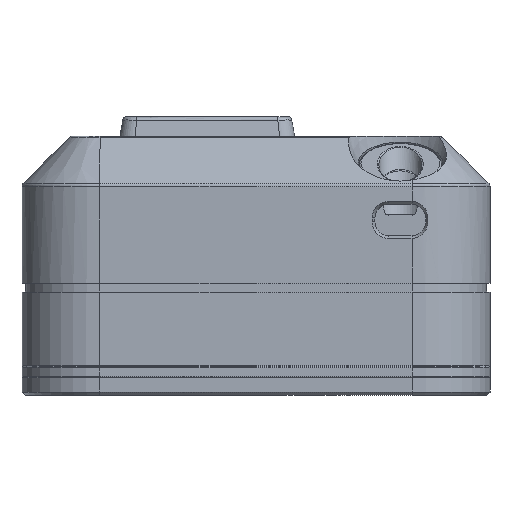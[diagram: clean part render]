
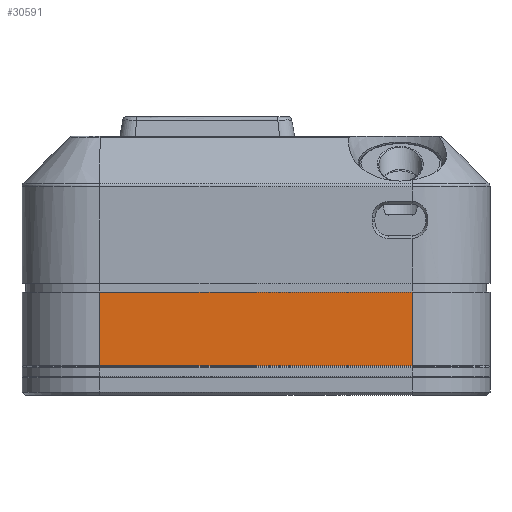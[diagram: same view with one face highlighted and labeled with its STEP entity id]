
A CAD part, left-side view. The second image highlights one B-rep face of the part: STEP entity #30591.
In plain terms, the highlighted planar face has unit normal (-1, 0, 0).
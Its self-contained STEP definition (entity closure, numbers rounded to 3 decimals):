
#8400 = PLANE('',#8401);
#8401 = AXIS2_PLACEMENT_3D('',#8402,#8403,#8404);
#8402 = CARTESIAN_POINT('',(-27.1,-24.1,3.05));
#8403 = DIRECTION('',(0.,0.,1.));
#8404 = DIRECTION('',(1.,0.,0.));
#9003 = VERTEX_POINT('',#9004);
#9004 = CARTESIAN_POINT('',(-27.,16.,3.05));
#9019 = CYLINDRICAL_SURFACE('',#9020,8.);
#9020 = AXIS2_PLACEMENT_3D('',#9021,#9022,#9023);
#9021 = CARTESIAN_POINT('',(-19.,16.,2.4));
#9022 = DIRECTION('',(0.,0.,1.));
#9023 = DIRECTION('',(-1.,-0.,0.));
#9031 = EDGE_CURVE('',#9003,#9032,#9034,.T.);
#9032 = VERTEX_POINT('',#9033);
#9033 = CARTESIAN_POINT('',(-27.,-16.,3.05));
#9034 = SURFACE_CURVE('',#9035,(#9039,#9045),.PCURVE_S1.);
#9035 = LINE('',#9036,#9037);
#9036 = CARTESIAN_POINT('',(-27.,-24.05,3.05));
#9037 = VECTOR('',#9038,1.);
#9038 = DIRECTION('',(0.,-1.,0.));
#9039 = PCURVE('',#8400,#9040);
#9040 = DEFINITIONAL_REPRESENTATION('',(#9041),#9044);
#9041 = B_SPLINE_CURVE_WITH_KNOTS('',1,(#9042,#9043),.UNSPECIFIED.,.F.,
  .F.,(2,2),(-40.05,-8.05),.PIECEWISE_BEZIER_KNOTS.);
#9042 = CARTESIAN_POINT('',(0.1,40.1));
#9043 = CARTESIAN_POINT('',(0.1,8.1));
#9044 = ( GEOMETRIC_REPRESENTATION_CONTEXT(2) 
PARAMETRIC_REPRESENTATION_CONTEXT() REPRESENTATION_CONTEXT('2D SPACE',''
  ) );
#9045 = PCURVE('',#9046,#9051);
#9046 = PLANE('',#9047);
#9047 = AXIS2_PLACEMENT_3D('',#9048,#9049,#9050);
#9048 = CARTESIAN_POINT('',(-27.,-24.,2.4));
#9049 = DIRECTION('',(1.,0.,0.));
#9050 = DIRECTION('',(0.,0.,1.));
#9051 = DEFINITIONAL_REPRESENTATION('',(#9052),#9055);
#9052 = B_SPLINE_CURVE_WITH_KNOTS('',1,(#9053,#9054),.UNSPECIFIED.,.F.,
  .F.,(2,2),(-40.05,-8.05),.PIECEWISE_BEZIER_KNOTS.);
#9053 = CARTESIAN_POINT('',(0.65,-40.));
#9054 = CARTESIAN_POINT('',(0.65,-8.));
#9055 = ( GEOMETRIC_REPRESENTATION_CONTEXT(2) 
PARAMETRIC_REPRESENTATION_CONTEXT() REPRESENTATION_CONTEXT('2D SPACE',''
  ) );
#9074 = CYLINDRICAL_SURFACE('',#9075,8.);
#9075 = AXIS2_PLACEMENT_3D('',#9076,#9077,#9078);
#9076 = CARTESIAN_POINT('',(-19.,-16.,2.4));
#9077 = DIRECTION('',(0.,0.,1.));
#9078 = DIRECTION('',(-1.,-0.,0.));
#9108 = EDGE_CURVE('',#9032,#9109,#9111,.T.);
#9109 = VERTEX_POINT('',#9110);
#9110 = CARTESIAN_POINT('',(-27.,-16.,10.6));
#9111 = SURFACE_CURVE('',#9112,(#9116,#9123),.PCURVE_S1.);
#9112 = LINE('',#9113,#9114);
#9113 = CARTESIAN_POINT('',(-27.,-16.,2.4));
#9114 = VECTOR('',#9115,1.);
#9115 = DIRECTION('',(0.,0.,1.));
#9116 = PCURVE('',#9074,#9117);
#9117 = DEFINITIONAL_REPRESENTATION('',(#9118),#9122);
#9118 = LINE('',#9119,#9120);
#9119 = CARTESIAN_POINT('',(0.,0.));
#9120 = VECTOR('',#9121,1.);
#9121 = DIRECTION('',(0.,1.));
#9122 = ( GEOMETRIC_REPRESENTATION_CONTEXT(2) 
PARAMETRIC_REPRESENTATION_CONTEXT() REPRESENTATION_CONTEXT('2D SPACE',''
  ) );
#9123 = PCURVE('',#9046,#9124);
#9124 = DEFINITIONAL_REPRESENTATION('',(#9125),#9129);
#9125 = LINE('',#9126,#9127);
#9126 = CARTESIAN_POINT('',(0.,-8.));
#9127 = VECTOR('',#9128,1.);
#9128 = DIRECTION('',(1.,0.));
#9129 = ( GEOMETRIC_REPRESENTATION_CONTEXT(2) 
PARAMETRIC_REPRESENTATION_CONTEXT() REPRESENTATION_CONTEXT('2D SPACE',''
  ) );
#9170 = PLANE('',#9171);
#9171 = AXIS2_PLACEMENT_3D('',#9172,#9173,#9174);
#9172 = CARTESIAN_POINT('',(-27.5,-24.5,10.6));
#9173 = DIRECTION('',(0.,0.,1.));
#9174 = DIRECTION('',(1.,0.,0.));
#9185 = EDGE_CURVE('',#9186,#9109,#9188,.T.);
#9186 = VERTEX_POINT('',#9187);
#9187 = CARTESIAN_POINT('',(-27.,16.,10.6));
#9188 = SURFACE_CURVE('',#9189,(#9193,#9199),.PCURVE_S1.);
#9189 = LINE('',#9190,#9191);
#9190 = CARTESIAN_POINT('',(-27.,-24.25,10.6));
#9191 = VECTOR('',#9192,1.);
#9192 = DIRECTION('',(0.,-1.,0.));
#9193 = PCURVE('',#9170,#9194);
#9194 = DEFINITIONAL_REPRESENTATION('',(#9195),#9198);
#9195 = B_SPLINE_CURVE_WITH_KNOTS('',1,(#9196,#9197),.UNSPECIFIED.,.F.,
  .F.,(2,2),(-40.25,-8.25),.PIECEWISE_BEZIER_KNOTS.);
#9196 = CARTESIAN_POINT('',(0.5,40.5));
#9197 = CARTESIAN_POINT('',(0.5,8.5));
#9198 = ( GEOMETRIC_REPRESENTATION_CONTEXT(2) 
PARAMETRIC_REPRESENTATION_CONTEXT() REPRESENTATION_CONTEXT('2D SPACE',''
  ) );
#9199 = PCURVE('',#9046,#9200);
#9200 = DEFINITIONAL_REPRESENTATION('',(#9201),#9204);
#9201 = B_SPLINE_CURVE_WITH_KNOTS('',1,(#9202,#9203),.UNSPECIFIED.,.F.,
  .F.,(2,2),(-40.25,-8.25),.PIECEWISE_BEZIER_KNOTS.);
#9202 = CARTESIAN_POINT('',(8.2,-40.));
#9203 = CARTESIAN_POINT('',(8.2,-8.));
#9204 = ( GEOMETRIC_REPRESENTATION_CONTEXT(2) 
PARAMETRIC_REPRESENTATION_CONTEXT() REPRESENTATION_CONTEXT('2D SPACE',''
  ) );
#30591 = ADVANCED_FACE('',(#30592),#9046,.F.);
#30592 = FACE_BOUND('',#30593,.F.);
#30593 = EDGE_LOOP('',(#30594,#30595,#30596,#30617));
#30594 = ORIENTED_EDGE('',*,*,#9108,.F.);
#30595 = ORIENTED_EDGE('',*,*,#9031,.F.);
#30596 = ORIENTED_EDGE('',*,*,#30597,.T.);
#30597 = EDGE_CURVE('',#9003,#9186,#30598,.T.);
#30598 = SURFACE_CURVE('',#30599,(#30603,#30610),.PCURVE_S1.);
#30599 = LINE('',#30600,#30601);
#30600 = CARTESIAN_POINT('',(-27.,16.,2.4));
#30601 = VECTOR('',#30602,1.);
#30602 = DIRECTION('',(0.,0.,1.));
#30603 = PCURVE('',#9046,#30604);
#30604 = DEFINITIONAL_REPRESENTATION('',(#30605),#30609);
#30605 = LINE('',#30606,#30607);
#30606 = CARTESIAN_POINT('',(0.,-40.));
#30607 = VECTOR('',#30608,1.);
#30608 = DIRECTION('',(1.,0.));
#30609 = ( GEOMETRIC_REPRESENTATION_CONTEXT(2) 
PARAMETRIC_REPRESENTATION_CONTEXT() REPRESENTATION_CONTEXT('2D SPACE',''
  ) );
#30610 = PCURVE('',#9019,#30611);
#30611 = DEFINITIONAL_REPRESENTATION('',(#30612),#30616);
#30612 = LINE('',#30613,#30614);
#30613 = CARTESIAN_POINT('',(-0.,0.));
#30614 = VECTOR('',#30615,1.);
#30615 = DIRECTION('',(-0.,1.));
#30616 = ( GEOMETRIC_REPRESENTATION_CONTEXT(2) 
PARAMETRIC_REPRESENTATION_CONTEXT() REPRESENTATION_CONTEXT('2D SPACE',''
  ) );
#30617 = ORIENTED_EDGE('',*,*,#9185,.T.);
